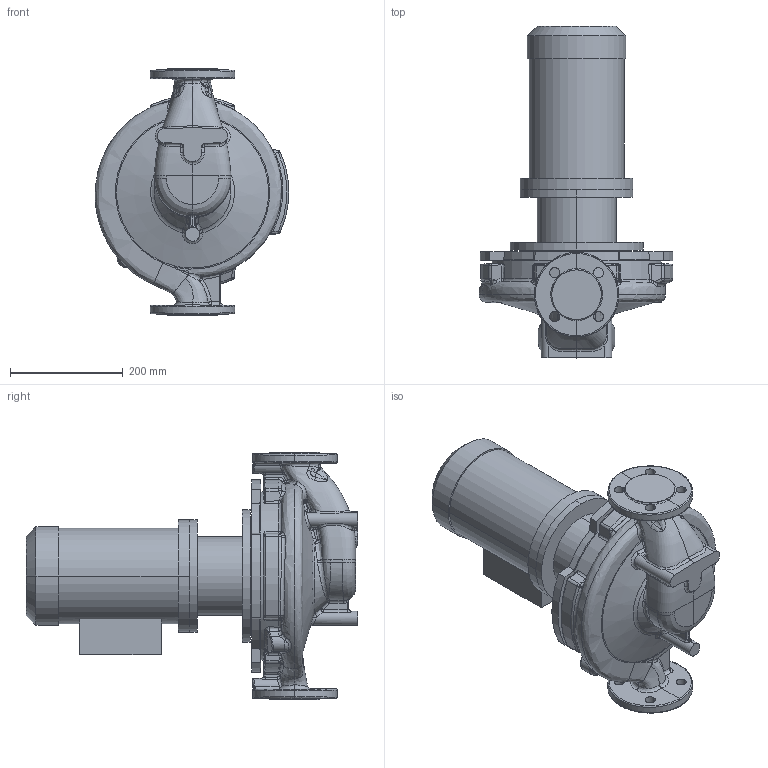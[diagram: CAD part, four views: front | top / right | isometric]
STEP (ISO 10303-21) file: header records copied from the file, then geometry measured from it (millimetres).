
FILE_DESCRIPTION (( 'STEP AP214' ), '1' );
FILE_NAME ('KRL 40-250-4-2,2.STEP', '2026-03-19T09:31:33', ( '' ), ( '' ), 'SwSTEP 2.0', 'SolidWorks 2016', '' );
FILE_SCHEMA (( 'AUTOMOTIVE_DESIGN' ));
Length unit declared in the file: millimetre
Products named in the file (1): KRL 40-250-4-2,2
Bounding box: 344.08 x 589.3 x 440 mm (x, y, z)
Volume: 21191671.2 mm3; surface area: 1060004.1 mm2
Topology: 4 solids, 4 shells, 661 faces, 1579 edges, 926 vertices
Faces by surface type: bspline 316, cylinder 130, plane 95, sphere 44, cone 42, torus 34
Entity records: 67064 total; most frequent: CARTESIAN_POINT 47170, ORIENTED_EDGE 3120, DIRECTION 1982, EDGE_CURVE 1560, VERTEX_POINT 926, AXIS2_PLACEMENT_3D 870, EDGE_LOOP 696, UNCERTAINTY_MEASURE_WITH_UNIT 667
